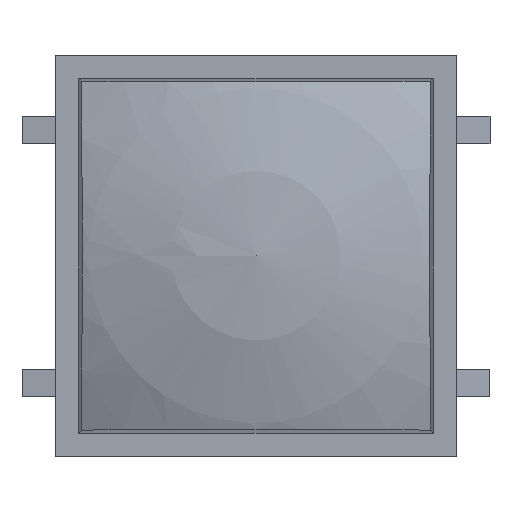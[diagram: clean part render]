
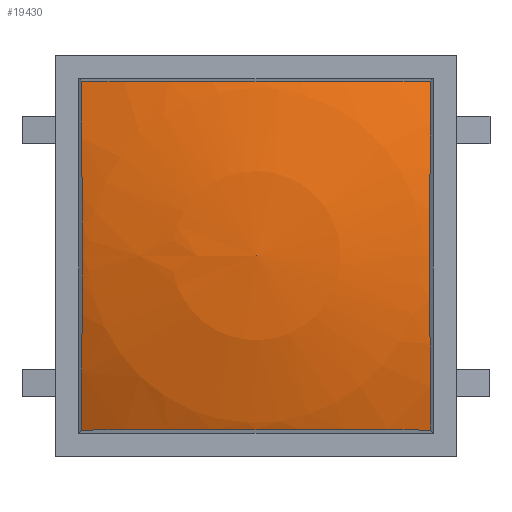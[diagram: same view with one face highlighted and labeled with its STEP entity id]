
A CAD part, top view. The second image highlights one B-rep face of the part: STEP entity #19430.
In plain terms, the highlighted spherical face has radius 17.5 mm.
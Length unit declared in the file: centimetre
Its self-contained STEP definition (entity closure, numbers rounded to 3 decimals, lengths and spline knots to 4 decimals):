
#264=SPHERICAL_SURFACE($,#20494,1.75);
#1058=FACE_OUTER_BOUND($,#2064,.T.);
#2064=EDGE_LOOP($,(#12211,#12212,#12213,#12214));
#3114=CIRCLE($,#20415,1.6609);
#3144=CIRCLE($,#20489,1.6609);
#3145=CIRCLE($,#20491,1.6609);
#3146=CIRCLE($,#20493,1.6609);
#7242=VERTEX_POINT($,#26716);
#7243=VERTEX_POINT($,#26718);
#7343=VERTEX_POINT($,#27731);
#7344=VERTEX_POINT($,#27733);
#9131=EDGE_CURVE($,#7242,#7243,#3114,.T.);
#9266=EDGE_CURVE($,#7343,#7344,#3144,.T.);
#9268=EDGE_CURVE($,#7344,#7242,#3145,.T.);
#9269=EDGE_CURVE($,#7243,#7343,#3146,.T.);
#12211=ORIENTED_EDGE($,*,*,#9266,.F.);
#12212=ORIENTED_EDGE($,*,*,#9269,.F.);
#12213=ORIENTED_EDGE($,*,*,#9131,.F.);
#12214=ORIENTED_EDGE($,*,*,#9268,.F.);
#19430=ADVANCED_FACE($,(#1058),#264,.T.);
#20415=AXIS2_PLACEMENT_3D($,#26719,#21920,#21921);
#20489=AXIS2_PLACEMENT_3D($,#27734,#22109,#22110);
#20491=AXIS2_PLACEMENT_3D($,#27737,#22114,#22115);
#20493=AXIS2_PLACEMENT_3D($,#27739,#22118,#22119);
#20494=AXIS2_PLACEMENT_3D($,#27740,#22120,#22121);
#21920=DIRECTION('center_axis',(0.,1.,
0.017));
#21921=DIRECTION('ref_axis',(0.,0.017,-1.));
#22109=DIRECTION('center_axis',(0.,-1.,
0.017));
#22110=DIRECTION('ref_axis',(0.,0.017,
1.));
#22114=DIRECTION('center_axis',(-1.,0.,
0.017));
#22115=DIRECTION('ref_axis',(-0.017,0.,
-1.));
#22118=DIRECTION('center_axis',(1.,0.,
0.017));
#22119=DIRECTION('ref_axis',(-0.017,0.,1.));
#22120=DIRECTION('center_axis',(0.,0.,
1.));
#22121=DIRECTION('ref_axis',(-1.,0.,0.));
#26716=CARTESIAN_POINT('',(-0.5236,0.5236,0.9306));
#26718=CARTESIAN_POINT('',(0.5236,0.5236,0.9306));
#26719=CARTESIAN_POINT('Origin',(0.,0.5511,
-0.6454));
#27731=CARTESIAN_POINT('',(0.5236,-0.5236,0.9306));
#27733=CARTESIAN_POINT('',(-0.5236,-0.5236,0.9306));
#27734=CARTESIAN_POINT('Origin',(0.,-0.5511,
-0.6454));
#27737=CARTESIAN_POINT('Origin',(-0.5511,0.,
-0.6454));
#27739=CARTESIAN_POINT('Origin',(0.5511,0.,
-0.6454));
#27740=CARTESIAN_POINT('Origin',(0.,0.,
-0.655));
